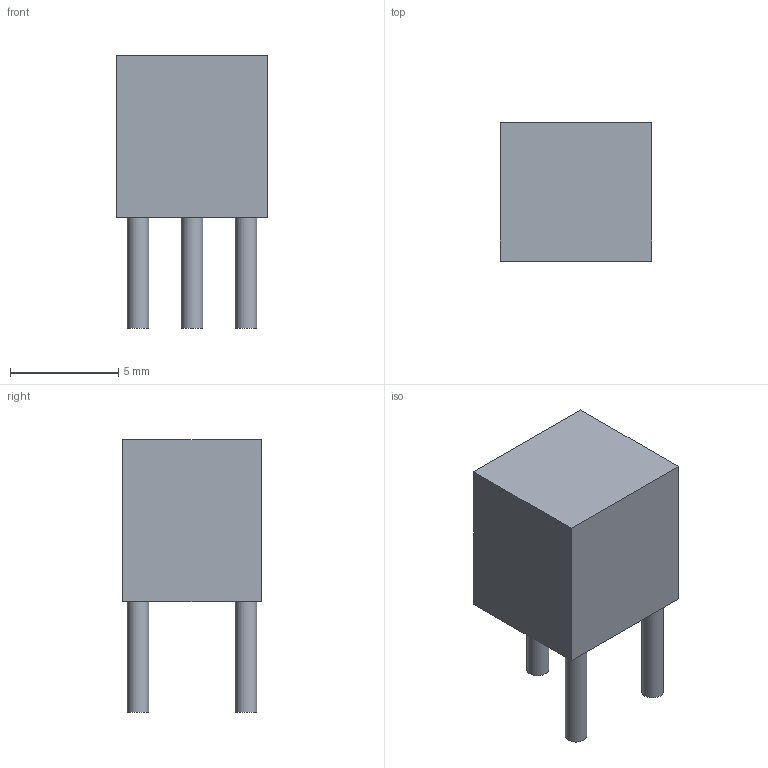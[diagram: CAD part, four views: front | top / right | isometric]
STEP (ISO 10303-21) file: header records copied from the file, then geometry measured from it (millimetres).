
FILE_DESCRIPTION(('FreeCAD Model'),'2;1');
FILE_NAME('/var/www/3D/0T/2354309.1.2.stp','2020-04-11T01:13:02',( 'Author'),(''),'Open CASCADE STEP processor 6.9','FreeCAD','Unknown' );
FILE_SCHEMA(('AUTOMOTIVE_DESIGN { 1 0 10303 214 1 1 1 1 }'));
Length unit declared in the file: millimetre
Products named in the file (3): ASSEMBLY; Body; Leads
Assembly tree (4 placements, depth 2):
  ASSEMBLY
    Body
    Leads  x3
Bounding box: 7 x 6.4 x 12.6 mm (x, y, z)
Volume: 372 mm3; surface area: 448.9 mm2
Topology: 10 solids, 10 shells, 33 faces, 39 edges, 26 vertices
Faces by surface type: plane 24, cylinder 9
Full cylindrical faces by diameter (mm): 1 x9
Entity records: 690 total; most frequent: DIRECTION 109, CARTESIAN_POINT 97, LINE 51, VECTOR 51, ORIENTED_EDGE 42, PCURVE 42, DEFINITIONAL_REPRESENTATION 42, AXIS2_PLACEMENT_3D 26
